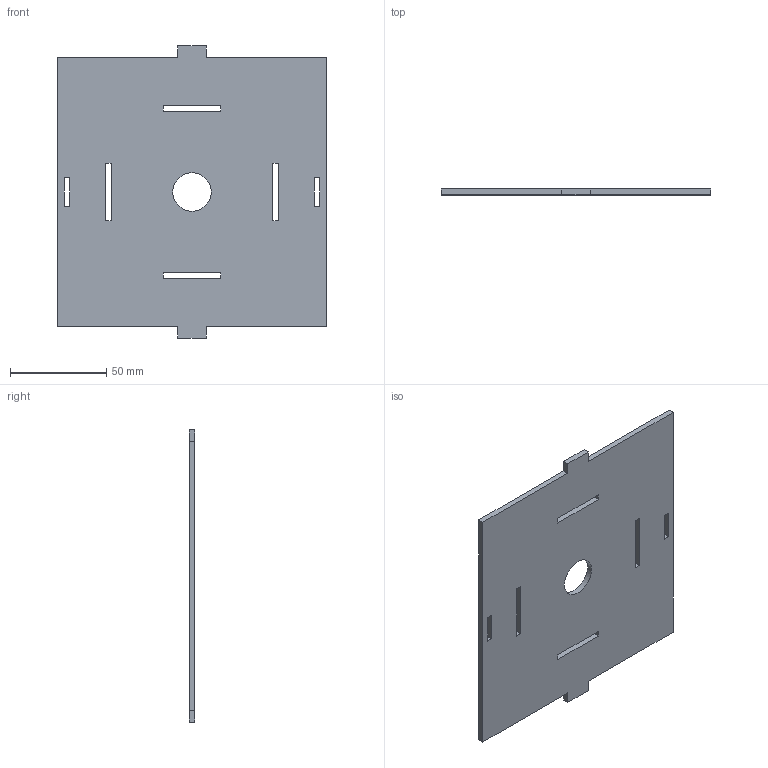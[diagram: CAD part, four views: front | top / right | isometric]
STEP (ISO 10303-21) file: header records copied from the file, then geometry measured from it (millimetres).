
FILE_DESCRIPTION(/* description */ (''),/* implementation_level */ '2;1');
FILE_NAME(/* name */ 'Front Mid.step',/* time_stamp */ '2023-08-12T23:51:26+03:00',/* author */ (''),/* organization */ (''),/* preprocessor_version */ 'ST-DEVELOPER v20',/* originating_system */ 'Autodesk Translation Framework v12.9.0.99',/* authorisation */ '');
FILE_SCHEMA (('AUTOMOTIVE_DESIGN { 1 0 10303 214 3 1 1 }'));
Length unit declared in the file: millimetre
Products named in the file (1): Front Mid
Bounding box: 140 x 3 x 152 mm (x, y, z)
Volume: 57047.5 mm3; surface area: 40980.2 mm2
Topology: 1 solids, 1 shells, 39 faces, 111 edges, 74 vertices
Faces by surface type: plane 38, cylinder 1
Full cylindrical faces by diameter (mm): 20 x1
Entity records: 1308 total; most frequent: CARTESIAN_POINT 225, ORIENTED_EDGE 222, DIRECTION 193, EDGE_CURVE 111, LINE 109, VECTOR 109, VERTEX_POINT 74, EDGE_LOOP 53
